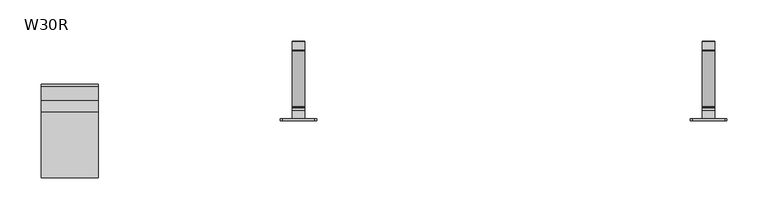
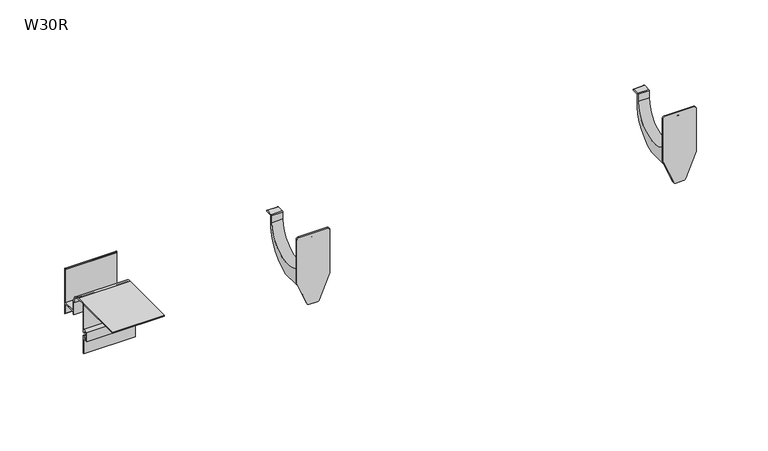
"""IFC4 building model written with IfcOpenShell, lengths in millimetres: proxy geometry, W30R Profil okapowy prosty z rynną : W30R."""

from ifc_helpers import new_model, si_unit, point, frame, frame_2d, origin, place, context, project, spatial, polyline, circle_curve, trimmed, segment, composite_curve, outline, extrude, source, transform, mapped, element, save
from ifc_brep_helpers import plane_surface, cylinder_surface, revolved_surface, advanced_brep


def w30r_471fe23f(model_context):
    return source(origin(), model_context, "Body", "SolidModel", [
        advanced_brep(
        [(806.4889281, 43.253125, -67.3579557), (806.4889281, 43.253125, -57.4654849), (806.4889281, 44.253125, -56.4654849), (806.4889281, 54.253125, -56.4654849), (806.4889281, 54.253125, -58.4654849), (806.4889281, 45.753125, -58.4654849), (806.4889281, 45.753125, -62.0548341), (806.4889281, 45.753125, -76.6748546), (806.4889281, 11.253125, -121.4654849), (806.4889281, -39.746875, -121.4650625), (806.4889281, -39.746875, -46.4650625), (806.4889281, -29.746875, -46.4650625), (806.4889281, -26.9184479, -47.6366354), (806.4889281, -25.5042343, -49.0508489), (806.4889281, -26.9184479, -50.4650625), (806.4889281, -28.3326614, -49.0508489), (806.4889281, -33.746875, -48.4650699), (806.4889281, -31.746875, -67.3579557), (821.4889281, 43.253125, -67.3579557), (821.4889281, -31.746875, -67.3579557), (821.4889281, -33.746875, -48.4650699), (821.4889281, -28.3326614, -49.0508489), (821.4889281, -26.9184479, -50.4650625), (821.4889281, -25.5042343, -49.0508489), (821.4889281, -26.9184479, -47.6366354), (821.4889281, -29.746875, -46.4650625), (821.4889281, -39.746875, -46.4650625), (821.4889281, -39.746875, -121.4650625), (821.4889281, 11.253125, -121.4654849), (821.4889281, 45.753125, -76.6748546), (821.4889281, 45.753125, -62.0548341), (821.4889281, 45.753125, -58.4654849), (821.4889281, 54.253125, -58.4654849), (821.4889281, 54.253125, -56.4654849), (821.4889281, 44.253125, -56.4654849), (821.4889281, 43.253125, -57.4654849), (833.4889281, -39.746875, -33.4650625), (836.4889281, -39.746875, -36.4650625), (836.4889281, -39.746875, -98.4650625), (822.2581588, -39.746875, -132.6189087), (819.4889281, -39.746875, -134.4650625), (808.4889281, -39.746875, -134.4650625), (805.7196973, -39.746875, -132.6189087), (791.4889281, -39.746875, -98.4650625), (791.4889281, -39.746875, -36.4650625), (794.4889281, -39.746875, -33.4650625), (833.4889281, -41.746875, -33.4650625), (794.4889281, -41.746875, -33.4650625), (791.4889281, -41.746875, -36.4650625), (791.4889281, -41.746875, -98.4650625), (805.7196973, -41.746875, -132.6189087), (808.4889281, -41.746875, -134.4650625), (819.4889281, -41.746875, -134.4650625), (822.2581588, -41.746875, -132.6189087), (836.4889281, -41.746875, -98.4650625), (836.4889281, -41.746875, -36.4650625)],
        [
            (0, 1),
            (1, 2, circle_curve(frame((806.4889281, 44.253125, -57.4654849), z_axis=(-1.0, 0.0, 0.0), x_axis=(0.0, 1.0, 0.0)), 1.0)),
            (2, 3),
            (3, 4, circle_curve(frame((806.4889281, 54.253125, -57.4654849), z_axis=(-1.0, 0.0, 0.0), x_axis=(0.0, 1.0, 0.0)), 1.0)),
            (4, 5),
            (5, 6),
            (6, 7),
            (7, 8, circle_curve(frame((806.4889281, -6.9272146, -71.7799373), z_axis=(-1.0, 0.0, 0.0), x_axis=(0.0, 1.0, 0.0)), 52.9072622)),
            (8, 9),
            (9, 10),
            (10, 11),
            (11, 12, circle_curve(frame((806.4889281, -29.746875, -50.4650625), z_axis=(-1.0, 0.0, 0.0), x_axis=(0.0, 1.0, 0.0)), 4.0)),
            (12, 13),
            (13, 14, circle_curve(frame((806.4889281, -26.2113411, -49.7579557), z_axis=(-1.0, 0.0, 0.0), x_axis=(0.0, 1.0, 0.0)), 1.0)),
            (14, 15),
            (15, 16, circle_curve(frame((806.4889281, -32.9075381, -66.0213045), z_axis=(1.0, 0.0, 0.0), x_axis=(0.0, 1.0, 0.0)), 17.5762868)),
            (16, 17),
            (17, 0, circle_curve(frame((806.4889281, 5.753125, -67.3579557), z_axis=(1.0, 0.0, 0.0), x_axis=(0.0, 1.0, 0.0)), 37.5)),
            (18, 19, circle_curve(frame((821.4889281, 5.753125, -67.3579557), z_axis=(-1.0, 0.0, 0.0), x_axis=(0.0, 1.0, 0.0)), 37.5)),
            (19, 20),
            (20, 21, circle_curve(frame((821.4889281, -32.9075381, -66.0213045), z_axis=(-1.0, 0.0, 0.0), x_axis=(0.0, 1.0, 0.0)), 17.5762868)),
            (21, 22),
            (22, 23, circle_curve(frame((821.4889281, -26.2113411, -49.7579557), z_axis=(1.0, 0.0, 0.0), x_axis=(0.0, 1.0, 0.0)), 1.0)),
            (23, 24),
            (24, 25, circle_curve(frame((821.4889281, -29.746875, -50.4650625), z_axis=(1.0, 0.0, 0.0), x_axis=(0.0, 1.0, 0.0)), 4.0)),
            (25, 26),
            (26, 27),
            (27, 28),
            (28, 29, circle_curve(frame((821.4889281, -6.9272146, -71.7799373), z_axis=(1.0, 0.0, 0.0), x_axis=(0.0, 1.0, 0.0)), 52.9072622)),
            (29, 30),
            (30, 31),
            (31, 32),
            (32, 33, circle_curve(frame((821.4889281, 54.253125, -57.4654849), z_axis=(1.0, 0.0, 0.0), x_axis=(0.0, 1.0, 0.0)), 1.0)),
            (33, 34),
            (34, 35, circle_curve(frame((821.4889281, 44.253125, -57.4654849), z_axis=(1.0, 0.0, 0.0), x_axis=(0.0, 1.0, 0.0)), 1.0)),
            (35, 18),
            (0, 18),
            (35, 1),
            (34, 2),
            (33, 3),
            (32, 4),
            (31, 5),
            (30, 6),
            (29, 7),
            (28, 8),
            (27, 9),
            (10, 26),
            (25, 11),
            (24, 12),
            (23, 13),
            (22, 14),
            (21, 15),
            (20, 16),
            (19, 17),
            (36, 37, circle_curve(frame((833.4889281, -39.746875, -36.4650625), z_axis=(0.0, 1.0, 0.0), x_axis=(1.0, 0.0, 0.0)), 3.0)),
            (37, 38),
            (38, 39),
            (39, 40, circle_curve(frame((819.4889281, -39.746875, -131.4650625), z_axis=(0.0, 1.0, 0.0), x_axis=(1.0, 0.0, 0.0)), 3.0)),
            (40, 41),
            (41, 42, circle_curve(frame((808.4889281, -39.746875, -131.4650625), z_axis=(0.0, 1.0, 0.0), x_axis=(1.0, 0.0, 0.0)), 3.0)),
            (42, 43),
            (43, 44),
            (44, 45, circle_curve(frame((794.4889281, -39.746875, -36.4650625), z_axis=(0.0, 1.0, 0.0), x_axis=(1.0, 0.0, 0.0)), 3.0)),
            (45, 36),
            (46, 47),
            (47, 48, circle_curve(frame((794.4889281, -41.746875, -36.4650625), z_axis=(0.0, -1.0, 0.0), x_axis=(1.0, 0.0, 0.0)), 3.0)),
            (48, 49),
            (49, 50),
            (50, 51, circle_curve(frame((808.4889281, -41.746875, -131.4650625), z_axis=(0.0, -1.0, 0.0), x_axis=(1.0, 0.0, 0.0)), 3.0)),
            (51, 52),
            (52, 53, circle_curve(frame((819.4889281, -41.746875, -131.4650625), z_axis=(0.0, -1.0, 0.0), x_axis=(1.0, 0.0, 0.0)), 3.0)),
            (53, 54),
            (54, 55),
            (55, 46, circle_curve(frame((833.4889281, -41.746875, -36.4650625), z_axis=(0.0, -1.0, 0.0), x_axis=(1.0, 0.0, 0.0)), 3.0)),
            (45, 47),
            (46, 36),
            (44, 48),
            (43, 49),
            (42, 50),
            (41, 51),
            (40, 52),
            (39, 53),
            (38, 54),
            (37, 55),
        ],
        [
            plane_surface(frame((806.4889281, 43.253125, -57.4654849), z_axis=(-1.0, 0.0, 0.0), x_axis=(0.0, 0.0, -1.0))),
            plane_surface(frame((821.4889281, 43.253125, -57.4654849), z_axis=(1.0, 0.0, 0.0), x_axis=(0.0, 0.0, 1.0))),
            plane_surface(frame((821.4889281, 43.253125, -67.3579557), z_axis=(0.0, -1.0, 0.0), x_axis=(-1.0, 0.0, 0.0))),
            cylinder_surface(frame((806.4889281, 44.253125, -57.4654849), z_axis=(1.0, 0.0, 0.0), x_axis=(0.0, 1.0, 0.0)), 1.0),
            plane_surface(frame((821.4889281, 44.253125, -56.4654849), z_axis=(0.0, 0.0, 1.0), x_axis=(-1.0, 0.0, 0.0))),
            cylinder_surface(frame((806.4889281, 54.253125, -57.4654849), z_axis=(1.0, 0.0, 0.0), x_axis=(0.0, 1.0, 0.0)), 1.0),
            plane_surface(frame((821.4889281, 54.253125, -58.4654849), z_axis=(0.0, 0.0, -1.0), x_axis=(-1.0, 0.0, 0.0))),
            plane_surface(frame((821.4889281, 45.753125, -58.4654849), z_axis=(0.0, 1.0, 0.0), x_axis=(-1.0, 0.0, 0.0))),
            plane_surface(frame((821.4889281, 45.753125, -62.0548341), z_axis=(0.0, 1.0, 0.0), x_axis=(-1.0, 0.0, 0.0))),
            cylinder_surface(frame((806.4889281, -6.9272146, -71.7799373), z_axis=(1.0, 0.0, 0.0), x_axis=(0.0, 1.0, 0.0)), 52.9072622),
            plane_surface(frame((821.4889281, 11.253125, -121.4654849), z_axis=(0.0, -8.283194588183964e-06, -0.9999999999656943), x_axis=(-1.0, 0.0, 0.0))),
            plane_surface(frame((821.4889281, -40.7901639, -46.4650625), z_axis=(0.0, 0.0, 1.0), x_axis=(-1.0, 0.0, 0.0))),
            cylinder_surface(frame((806.4889281, -29.746875, -50.4650625), z_axis=(1.0, 0.0, 0.0), x_axis=(0.0, 1.0, 0.0)), 4.0),
            plane_surface(frame((821.4889281, -26.9184479, -47.6366354), z_axis=(0.0, 0.7071067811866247, 0.7071067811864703), x_axis=(-1.0, 0.0, 0.0))),
            cylinder_surface(frame((806.4889281, -26.2113411, -49.7579557), z_axis=(1.0, 0.0, 0.0), x_axis=(0.0, 1.0, 0.0)), 1.0),
            plane_surface(frame((821.4889281, -26.9184479, -50.4650625), z_axis=(0.0, -0.7071067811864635, -0.7071067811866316), x_axis=(-1.0, 0.0, 0.0))),
            revolved_surface(polyline([(806.4889281, -15.331251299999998, -66.0213045), (821.4889281, -15.331251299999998, -66.0213045)]), (806.4889281, -32.9075381, -66.0213045), (-1.0, 0.0, 0.0)),
            plane_surface(frame((821.4889281, -33.746875, -48.4650699), z_axis=(0.0, 0.9944434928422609, 0.10527174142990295), x_axis=(-1.0, 0.0, 0.0))),
            revolved_surface(polyline([(806.4889281, 43.253125, -67.3579557), (821.4889281, 43.253125, -67.3579557)]), (806.4889281, 5.753125, -67.3579557), (-1.0, 0.0, 0.0)),
            plane_surface(frame((794.4889281, -39.746875, -33.4650625), z_axis=(0.0, 1.0, 0.0), x_axis=(-1.0, 0.0, 0.0))),
            plane_surface(frame((794.4889281, -41.746875, -33.4650625), z_axis=(0.0, -1.0, 0.0), x_axis=(1.0, 0.0, 0.0))),
            plane_surface(frame((833.4889281, -39.746875, -33.4650625), z_axis=(0.0, 0.0, 1.0), x_axis=(0.0, -1.0, 0.0))),
            cylinder_surface(frame((794.4889281, -41.746875, -36.4650625), z_axis=(0.0, 1.0, 0.0), x_axis=(1.0, 0.0, 0.0)), 3.0),
            plane_surface(frame((791.4889281, -39.746875, -36.4650625), z_axis=(-1.0, 0.0, 0.0), x_axis=(0.0, -1.0, 0.0))),
            plane_surface(frame((791.4889281, -39.746875, -98.4650625), z_axis=(-0.9230769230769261, 0.0, -0.38461538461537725), x_axis=(0.0, -1.0, 0.0))),
            cylinder_surface(frame((808.4889281, -41.746875, -131.4650625), z_axis=(0.0, 1.0, 0.0), x_axis=(1.0, 0.0, 0.0)), 3.0),
            plane_surface(frame((808.4889281, -39.746875, -134.4650625), z_axis=(0.0, 0.0, -1.0), x_axis=(0.0, -1.0, 0.0))),
            cylinder_surface(frame((819.4889281, -41.746875, -131.4650625), z_axis=(0.0, 1.0, 0.0), x_axis=(1.0, 0.0, 0.0)), 3.0),
            plane_surface(frame((822.2581588, -39.746875, -132.6189087), z_axis=(0.9230769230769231, 0.0, -0.3846153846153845), x_axis=(0.0, -1.0, 0.0))),
            plane_surface(frame((836.4889281, -39.746875, -98.4650625), z_axis=(1.0, 0.0, 0.0), x_axis=(0.0, -1.0, 0.0))),
            cylinder_surface(frame((833.4889281, -41.746875, -36.4650625), z_axis=(0.0, 1.0, 0.0), x_axis=(1.0, 0.0, 0.0)), 3.0),
        ],
        [
            (0, [[1, 2, 3, 4, 5, 6, 7, 8, 9, 10, 11, 12, 13, 14, 15, 16, 17, 18]]),
            (1, [[19, 20, 21, 22, 23, 24, 25, 26, 27, 28, 29, 30, 31, 32, 33, 34, 35, 36]]),
            (2, [[37, -36, 38, -1]]),
            (3, [[-38, -35, 39, -2]]),
            (4, [[-39, -34, 40, -3]]),
            (5, [[-40, -33, 41, -4]]),
            (6, [[-41, -32, 42, -5]]),
            (7, [[-42, -31, 43, -6]]),
            (8, [[-43, -30, 44, -7]]),
            (9, [[-44, -29, 45, -8]]),
            (10, [[-28, 46, -9, -45]]),
            (11, [[-11, 47, -26, 48]]),
            (12, [[-48, -25, 49, -12]]),
            (13, [[-49, -24, 50, -13]]),
            (14, [[-50, -23, 51, -14]]),
            (15, [[-51, -22, 52, -15]]),
            (16, [[-52, -21, 53, -16]]),
            (17, [[-53, -20, 54, -17]]),
            (18, [[-54, -19, -37, -18]]),
            (19, [[55, 56, 57, 58, 59, 60, 61, 62, 63, 64], [-46, -27, -47, -10]]),
            (20, [[65, 66, 67, 68, 69, 70, 71, 72, 73, 74]]),
            (21, [[75, -65, 76, -64]]),
            (22, [[77, -66, -75, -63]]),
            (23, [[78, -67, -77, -62]]),
            (24, [[79, -68, -78, -61]]),
            (25, [[80, -69, -79, -60]]),
            (26, [[81, -70, -80, -59]]),
            (27, [[82, -71, -81, -58]]),
            (28, [[83, -72, -82, -57]]),
            (29, [[84, -73, -83, -56]]),
            (30, [[-76, -74, -84, -55]]),
        ],
    ),
        advanced_brep(
        [(306.4889281, 43.253125, -67.3579557), (306.4889281, 43.253125, -57.4654849), (306.4889281, 44.253125, -56.4654849), (306.4889281, 54.253125, -56.4654849), (306.4889281, 54.253125, -58.4654849), (306.4889281, 45.753125, -58.4654849), (306.4889281, 45.753125, -62.0548341), (306.4889281, 45.753125, -76.6748546), (306.4889281, 11.253125, -121.4654849), (306.4889281, -39.746875, -121.4650625), (306.4889281, -39.746875, -46.4650625), (306.4889281, -29.746875, -46.4650625), (306.4889281, -26.9184479, -47.6366354), (306.4889281, -25.5042343, -49.0508489), (306.4889281, -26.9184479, -50.4650625), (306.4889281, -28.3326614, -49.0508489), (306.4889281, -33.746875, -48.4650699), (306.4889281, -31.746875, -67.3579557), (321.4889281, 43.253125, -67.3579557), (321.4889281, -31.746875, -67.3579557), (321.4889281, -33.746875, -48.4650699), (321.4889281, -28.3326614, -49.0508489), (321.4889281, -26.9184479, -50.4650625), (321.4889281, -25.5042343, -49.0508489), (321.4889281, -26.9184479, -47.6366354), (321.4889281, -29.746875, -46.4650625), (321.4889281, -39.746875, -46.4650625), (321.4889281, -39.746875, -121.4650625), (321.4889281, 11.253125, -121.4654849), (321.4889281, 45.753125, -76.6748546), (321.4889281, 45.753125, -62.0548341), (321.4889281, 45.753125, -58.4654849), (321.4889281, 54.253125, -58.4654849), (321.4889281, 54.253125, -56.4654849), (321.4889281, 44.253125, -56.4654849), (321.4889281, 43.253125, -57.4654849), (333.4889281, -39.746875, -33.4650625), (336.4889281, -39.746875, -36.4650625), (336.4889281, -39.746875, -98.4650625), (322.2581588, -39.746875, -132.6189087), (319.4889281, -39.746875, -134.4650625), (308.4889281, -39.746875, -134.4650625), (305.7196973, -39.746875, -132.6189087), (291.4889281, -39.746875, -98.4650625), (291.4889281, -39.746875, -36.4650625), (294.4889281, -39.746875, -33.4650625), (333.4889281, -41.746875, -33.4650625), (294.4889281, -41.746875, -33.4650625), (291.4889281, -41.746875, -36.4650625), (291.4889281, -41.746875, -98.4650625), (305.7196973, -41.746875, -132.6189087), (308.4889281, -41.746875, -134.4650625), (319.4889281, -41.746875, -134.4650625), (322.2581588, -41.746875, -132.6189087), (336.4889281, -41.746875, -98.4650625), (336.4889281, -41.746875, -36.4650625)],
        [
            (0, 1),
            (1, 2, circle_curve(frame((306.4889281, 44.253125, -57.4654849), z_axis=(-1.0, 0.0, 0.0), x_axis=(0.0, 1.0, 0.0)), 1.0)),
            (2, 3),
            (3, 4, circle_curve(frame((306.4889281, 54.253125, -57.4654849), z_axis=(-1.0, 0.0, 0.0), x_axis=(0.0, 1.0, 0.0)), 1.0)),
            (4, 5),
            (5, 6),
            (6, 7),
            (7, 8, circle_curve(frame((306.4889281, -6.9272146, -71.7799373), z_axis=(-1.0, 0.0, 0.0), x_axis=(0.0, 1.0, 0.0)), 52.9072622)),
            (8, 9),
            (9, 10),
            (10, 11),
            (11, 12, circle_curve(frame((306.4889281, -29.746875, -50.4650625), z_axis=(-1.0, 0.0, 0.0), x_axis=(0.0, 1.0, 0.0)), 4.0)),
            (12, 13),
            (13, 14, circle_curve(frame((306.4889281, -26.2113411, -49.7579557), z_axis=(-1.0, 0.0, 0.0), x_axis=(0.0, 1.0, 0.0)), 1.0)),
            (14, 15),
            (15, 16, circle_curve(frame((306.4889281, -32.9075381, -66.0213045), z_axis=(1.0, 0.0, 0.0), x_axis=(0.0, 1.0, 0.0)), 17.5762868)),
            (16, 17),
            (17, 0, circle_curve(frame((306.4889281, 5.753125, -67.3579557), z_axis=(1.0, 0.0, 0.0), x_axis=(0.0, 1.0, 0.0)), 37.5)),
            (18, 19, circle_curve(frame((321.4889281, 5.753125, -67.3579557), z_axis=(-1.0, 0.0, 0.0), x_axis=(0.0, 1.0, 0.0)), 37.5)),
            (19, 20),
            (20, 21, circle_curve(frame((321.4889281, -32.9075381, -66.0213045), z_axis=(-1.0, 0.0, 0.0), x_axis=(0.0, 1.0, 0.0)), 17.5762868)),
            (21, 22),
            (22, 23, circle_curve(frame((321.4889281, -26.2113411, -49.7579557), z_axis=(1.0, 0.0, 0.0), x_axis=(0.0, 1.0, 0.0)), 1.0)),
            (23, 24),
            (24, 25, circle_curve(frame((321.4889281, -29.746875, -50.4650625), z_axis=(1.0, 0.0, 0.0), x_axis=(0.0, 1.0, 0.0)), 4.0)),
            (25, 26),
            (26, 27),
            (27, 28),
            (28, 29, circle_curve(frame((321.4889281, -6.9272146, -71.7799373), z_axis=(1.0, 0.0, 0.0), x_axis=(0.0, 1.0, 0.0)), 52.9072622)),
            (29, 30),
            (30, 31),
            (31, 32),
            (32, 33, circle_curve(frame((321.4889281, 54.253125, -57.4654849), z_axis=(1.0, 0.0, 0.0), x_axis=(0.0, 1.0, 0.0)), 1.0)),
            (33, 34),
            (34, 35, circle_curve(frame((321.4889281, 44.253125, -57.4654849), z_axis=(1.0, 0.0, 0.0), x_axis=(0.0, 1.0, 0.0)), 1.0)),
            (35, 18),
            (0, 18),
            (35, 1),
            (34, 2),
            (33, 3),
            (32, 4),
            (31, 5),
            (30, 6),
            (29, 7),
            (28, 8),
            (27, 9),
            (10, 26),
            (25, 11),
            (24, 12),
            (23, 13),
            (22, 14),
            (21, 15),
            (20, 16),
            (19, 17),
            (36, 37, circle_curve(frame((333.4889281, -39.746875, -36.4650625), z_axis=(0.0, 1.0, 0.0), x_axis=(1.0, 0.0, 0.0)), 3.0)),
            (37, 38),
            (38, 39),
            (39, 40, circle_curve(frame((319.4889281, -39.746875, -131.4650625), z_axis=(0.0, 1.0, 0.0), x_axis=(1.0, 0.0, 0.0)), 3.0)),
            (40, 41),
            (41, 42, circle_curve(frame((308.4889281, -39.746875, -131.4650625), z_axis=(0.0, 1.0, 0.0), x_axis=(1.0, 0.0, 0.0)), 3.0)),
            (42, 43),
            (43, 44),
            (44, 45, circle_curve(frame((294.4889281, -39.746875, -36.4650625), z_axis=(0.0, 1.0, 0.0), x_axis=(1.0, 0.0, 0.0)), 3.0)),
            (45, 36),
            (46, 47),
            (47, 48, circle_curve(frame((294.4889281, -41.746875, -36.4650625), z_axis=(0.0, -1.0, 0.0), x_axis=(1.0, 0.0, 0.0)), 3.0)),
            (48, 49),
            (49, 50),
            (50, 51, circle_curve(frame((308.4889281, -41.746875, -131.4650625), z_axis=(0.0, -1.0, 0.0), x_axis=(1.0, 0.0, 0.0)), 3.0)),
            (51, 52),
            (52, 53, circle_curve(frame((319.4889281, -41.746875, -131.4650625), z_axis=(0.0, -1.0, 0.0), x_axis=(1.0, 0.0, 0.0)), 3.0)),
            (53, 54),
            (54, 55),
            (55, 46, circle_curve(frame((333.4889281, -41.746875, -36.4650625), z_axis=(0.0, -1.0, 0.0), x_axis=(1.0, 0.0, 0.0)), 3.0)),
            (45, 47),
            (46, 36),
            (44, 48),
            (43, 49),
            (42, 50),
            (41, 51),
            (40, 52),
            (39, 53),
            (38, 54),
            (37, 55),
        ],
        [
            plane_surface(frame((306.4889281, 43.253125, -57.4654849), z_axis=(-1.0, 0.0, 0.0), x_axis=(0.0, 0.0, -1.0))),
            plane_surface(frame((321.4889281, 43.253125, -57.4654849), z_axis=(1.0, 0.0, 0.0), x_axis=(0.0, 0.0, 1.0))),
            plane_surface(frame((321.4889281, 43.253125, -67.3579557), z_axis=(0.0, -1.0, 0.0), x_axis=(-1.0, 0.0, 0.0))),
            cylinder_surface(frame((306.4889281, 44.253125, -57.4654849), z_axis=(1.0, 0.0, 0.0), x_axis=(0.0, 1.0, 0.0)), 1.0),
            plane_surface(frame((321.4889281, 44.253125, -56.4654849), z_axis=(0.0, 0.0, 1.0), x_axis=(-1.0, 0.0, 0.0))),
            cylinder_surface(frame((306.4889281, 54.253125, -57.4654849), z_axis=(1.0, 0.0, 0.0), x_axis=(0.0, 1.0, 0.0)), 1.0),
            plane_surface(frame((321.4889281, 54.253125, -58.4654849), z_axis=(0.0, 0.0, -1.0), x_axis=(-1.0, 0.0, 0.0))),
            plane_surface(frame((321.4889281, 45.753125, -58.4654849), z_axis=(0.0, 1.0, 0.0), x_axis=(-1.0, 0.0, 0.0))),
            plane_surface(frame((321.4889281, 45.753125, -62.0548341), z_axis=(0.0, 1.0, 0.0), x_axis=(-1.0, 0.0, 0.0))),
            cylinder_surface(frame((306.4889281, -6.9272146, -71.7799373), z_axis=(1.0, 0.0, 0.0), x_axis=(0.0, 1.0, 0.0)), 52.9072622),
            plane_surface(frame((321.4889281, 11.253125, -121.4654849), z_axis=(0.0, -8.283194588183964e-06, -0.9999999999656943), x_axis=(-1.0, 0.0, 0.0))),
            plane_surface(frame((321.4889281, -40.7901639, -46.4650625), z_axis=(0.0, 0.0, 1.0), x_axis=(-1.0, 0.0, 0.0))),
            cylinder_surface(frame((306.4889281, -29.746875, -50.4650625), z_axis=(1.0, 0.0, 0.0), x_axis=(0.0, 1.0, 0.0)), 4.0),
            plane_surface(frame((321.4889281, -26.9184479, -47.6366354), z_axis=(0.0, 0.7071067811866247, 0.7071067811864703), x_axis=(-1.0, 0.0, 0.0))),
            cylinder_surface(frame((306.4889281, -26.2113411, -49.7579557), z_axis=(1.0, 0.0, 0.0), x_axis=(0.0, 1.0, 0.0)), 1.0),
            plane_surface(frame((321.4889281, -26.9184479, -50.4650625), z_axis=(0.0, -0.7071067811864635, -0.7071067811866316), x_axis=(-1.0, 0.0, 0.0))),
            revolved_surface(polyline([(306.4889281, -15.331251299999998, -66.0213045), (321.4889281, -15.331251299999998, -66.0213045)]), (306.4889281, -32.9075381, -66.0213045), (-1.0, 0.0, 0.0)),
            plane_surface(frame((321.4889281, -33.746875, -48.4650699), z_axis=(0.0, 0.9944434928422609, 0.10527174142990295), x_axis=(-1.0, 0.0, 0.0))),
            revolved_surface(polyline([(306.4889281, 43.253125, -67.3579557), (321.4889281, 43.253125, -67.3579557)]), (306.4889281, 5.753125, -67.3579557), (-1.0, 0.0, 0.0)),
            plane_surface(frame((294.4889281, -39.746875, -33.4650625), z_axis=(0.0, 1.0, 0.0), x_axis=(-1.0, 0.0, 0.0))),
            plane_surface(frame((294.4889281, -41.746875, -33.4650625), z_axis=(0.0, -1.0, 0.0), x_axis=(1.0, 0.0, 0.0))),
            plane_surface(frame((333.4889281, -39.746875, -33.4650625), z_axis=(0.0, 0.0, 1.0), x_axis=(0.0, -1.0, 0.0))),
            cylinder_surface(frame((294.4889281, -41.746875, -36.4650625), z_axis=(0.0, 1.0, 0.0), x_axis=(1.0, 0.0, 0.0)), 3.0),
            plane_surface(frame((291.4889281, -39.746875, -36.4650625), z_axis=(-1.0, 0.0, 0.0), x_axis=(0.0, -1.0, 0.0))),
            plane_surface(frame((291.4889281, -39.746875, -98.4650625), z_axis=(-0.9230769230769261, 0.0, -0.38461538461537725), x_axis=(0.0, -1.0, 0.0))),
            cylinder_surface(frame((308.4889281, -41.746875, -131.4650625), z_axis=(0.0, 1.0, 0.0), x_axis=(1.0, 0.0, 0.0)), 3.0),
            plane_surface(frame((308.4889281, -39.746875, -134.4650625), z_axis=(0.0, 0.0, -1.0), x_axis=(0.0, -1.0, 0.0))),
            cylinder_surface(frame((319.4889281, -41.746875, -131.4650625), z_axis=(0.0, 1.0, 0.0), x_axis=(1.0, 0.0, 0.0)), 3.0),
            plane_surface(frame((322.2581588, -39.746875, -132.6189087), z_axis=(0.9230769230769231, 0.0, -0.3846153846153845), x_axis=(0.0, -1.0, 0.0))),
            plane_surface(frame((336.4889281, -39.746875, -98.4650625), z_axis=(1.0, 0.0, 0.0), x_axis=(0.0, -1.0, 0.0))),
            cylinder_surface(frame((333.4889281, -41.746875, -36.4650625), z_axis=(0.0, 1.0, 0.0), x_axis=(1.0, 0.0, 0.0)), 3.0),
        ],
        [
            (0, [[1, 2, 3, 4, 5, 6, 7, 8, 9, 10, 11, 12, 13, 14, 15, 16, 17, 18]]),
            (1, [[19, 20, 21, 22, 23, 24, 25, 26, 27, 28, 29, 30, 31, 32, 33, 34, 35, 36]]),
            (2, [[37, -36, 38, -1]]),
            (3, [[-38, -35, 39, -2]]),
            (4, [[-39, -34, 40, -3]]),
            (5, [[-40, -33, 41, -4]]),
            (6, [[-41, -32, 42, -5]]),
            (7, [[-42, -31, 43, -6]]),
            (8, [[-43, -30, 44, -7]]),
            (9, [[-44, -29, 45, -8]]),
            (10, [[-28, 46, -9, -45]]),
            (11, [[-11, 47, -26, 48]]),
            (12, [[-48, -25, 49, -12]]),
            (13, [[-49, -24, 50, -13]]),
            (14, [[-50, -23, 51, -14]]),
            (15, [[-51, -22, 52, -15]]),
            (16, [[-52, -21, 53, -16]]),
            (17, [[-53, -20, 54, -17]]),
            (18, [[-54, -19, -37, -18]]),
            (19, [[55, 56, 57, 58, 59, 60, 61, 62, 63, 64], [-46, -27, -47, -10]]),
            (20, [[65, 66, 67, 68, 69, 70, 71, 72, 73, 74]]),
            (21, [[75, -65, 76, -64]]),
            (22, [[77, -66, -75, -63]]),
            (23, [[78, -67, -77, -62]]),
            (24, [[79, -68, -78, -61]]),
            (25, [[80, -69, -79, -60]]),
            (26, [[81, -70, -80, -59]]),
            (27, [[82, -71, -81, -58]]),
            (28, [[83, -72, -82, -57]]),
            (29, [[84, -73, -83, -56]]),
            (30, [[-76, -74, -84, -55]]),
        ],
    ),
        extrude(outline(composite_curve([segment(polyline([(-41.76, -66.726163), (-43.76, -66.726163), (-43.76, -63.126163), (-48.96, -63.126163), (-48.96, -74.326163), (-43.76, -74.326163), (-43.76, -70.726163), (-41.76, -70.726163), (-41.76, -97.190163), (-43.04, -97.190163), (-43.04, -75.526163), (-50.32, -75.526163), (-50.32, -61.926163), (-43.12, -61.926163), (-43.12, -25.926163), (-111.68, -25.926163), (-111.68, -24.006163), (-31.36, -24.006163)]), True, "CONTINUOUS"), segment(trimmed(circle_curve(frame_2d((-31.36, -37.606163)), 13.6), [point((-31.36, -24.006163))], [point((-17.76, -37.606163))], False, "CARTESIAN"), True, "CONTINUOUS"), segment(polyline([(-17.76, -37.606163), (-17.76, -49.846163), (0.8, -49.846163), (0.8, -2.2327357)]), True, "CONTINUOUS"), segment(trimmed(circle_curve(frame_2d((0.0, -2.2327357)), 0.8), [point((0.8, -2.2327357))], [point((0.0, -1.4327357))], True, "CARTESIAN"), True, "CONTINUOUS"), segment(polyline([(0.0, -1.4327357), (0.0, 0.0)]), True, "CONTINUOUS"), segment(trimmed(circle_curve(frame_2d((0.0, -2.24)), 2.24), [point((0.0, 0.0))], [point((2.24, -2.24))], False, "CARTESIAN"), True, "CONTINUOUS"), segment(polyline([(2.24, -2.24), (2.24, -66.416302), (1.04, -65.216302), (1.04, -51.766163), (-17.76, -51.766163), (-17.76, -55.0930368), (-19.68, -55.0930368), (-19.68, -37.606163)]), True, "CONTINUOUS"), segment(trimmed(circle_curve(frame_2d((-31.36, -37.606163)), 11.68), [point((-19.68, -37.606163))], [point((-31.36, -25.926163))], True, "CARTESIAN"), True, "CONTINUOUS"), segment(polyline([(-31.36, -25.926163), (-41.76, -25.926163), (-41.76, -66.726163)]), True, "CONTINUOUS")], self_intersect=False)), frame((0.0, 0.0, 0.0), z_axis=(1.0, 0.0, 0.0), x_axis=(0.0, 1.0, 0.0)), (0.0, 0.0, 1.0), 70.0),
    ])


if __name__ == "__main__":
    model = new_model("IFC4")
    model_context = context("Model", 3, world=origin())
    ifc_project = project(units=[si_unit("LENGTHUNIT", "METRE", prefix="MILLI")], contexts=[model_context])
    site = spatial("IfcSite", under=ifc_project)
    building = spatial("IfcBuilding", under=site)
    placement = place(None, origin())
    w30r_shape = w30r_471fe23f(model_context)
    element("IfcBuildingElementProxy", 1, Name="W30R Profil okapowy prosty z rynną : W30R", ObjectType="W30R Profil okapowy prosty z rynną : W30R", at=placement, inside=building, context=model_context, shape_type="MappedRepresentation", body=[
        mapped(w30r_shape, transform((0.0, 0.0, 0.0), x_axis=(1.0, 0.0, 0.0), y_axis=(0.0, 1.0, 0.0), z_axis=(0.0, 0.0, 1.0))),
    ])
    save(model, "model.ifc")
